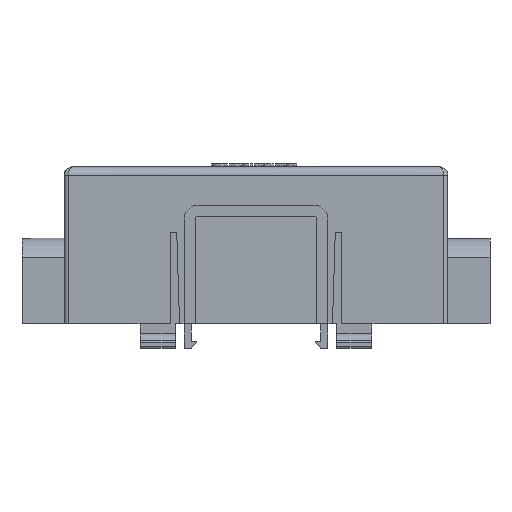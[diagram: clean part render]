
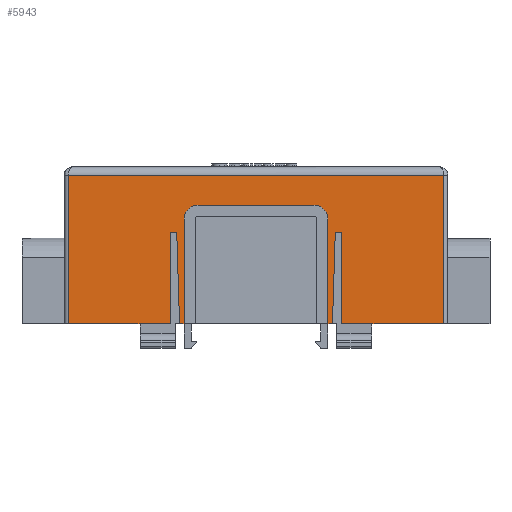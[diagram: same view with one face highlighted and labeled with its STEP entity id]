
A CAD part, front view. The second image highlights one B-rep face of the part: STEP entity #5943.
In plain terms, the highlighted planar face has unit normal (0, -1, 0).
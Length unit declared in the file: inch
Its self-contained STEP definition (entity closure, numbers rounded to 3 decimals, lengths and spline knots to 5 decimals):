
#99=CIRCLE('',#6282,0.098);
#100=CIRCLE('',#6283,0.098);
#516=FACE_OUTER_BOUND('',#836,.T.);
#836=EDGE_LOOP('',(#5275,#5276,#5277,#5278,#5279,#5280,#5281,#5282,#5283,
#5284,#5285,#5286,#5287,#5288,#5289,#5290,#5291,#5292));
#1321=LINE('',#9678,#1961);
#1347=LINE('',#9746,#1987);
#1588=LINE('',#10323,#2228);
#1591=LINE('',#10329,#2231);
#1594=LINE('',#10334,#2234);
#1606=LINE('',#10361,#2246);
#1607=LINE('',#10363,#2247);
#1608=LINE('',#10365,#2248);
#1609=LINE('',#10367,#2249);
#1610=LINE('',#10369,#2250);
#1611=LINE('',#10371,#2251);
#1612=LINE('',#10373,#2252);
#1613=LINE('',#10375,#2253);
#1614=LINE('',#10377,#2254);
#1615=LINE('',#10381,#2255);
#1616=LINE('',#10384,#2256);
#1961=VECTOR('',#6883,0.3937);
#1987=VECTOR('',#6943,0.3937);
#2228=VECTOR('',#7476,0.3937);
#2231=VECTOR('',#7481,0.3937);
#2234=VECTOR('',#7486,0.3937);
#2246=VECTOR('',#7506,0.3937);
#2247=VECTOR('',#7507,0.3937);
#2248=VECTOR('',#7508,0.3937);
#2249=VECTOR('',#7509,0.3937);
#2250=VECTOR('',#7510,0.3937);
#2251=VECTOR('',#7511,0.3937);
#2252=VECTOR('',#7512,0.3937);
#2253=VECTOR('',#7513,0.3937);
#2254=VECTOR('',#7514,0.3937);
#2255=VECTOR('',#7517,0.3937);
#2256=VECTOR('',#7520,0.3937);
#2605=VERTEX_POINT('',#9675);
#2606=VERTEX_POINT('',#9677);
#2630=VERTEX_POINT('',#9743);
#2631=VERTEX_POINT('',#9745);
#2821=VERTEX_POINT('',#10322);
#2823=VERTEX_POINT('',#10328);
#2835=VERTEX_POINT('',#10360);
#2836=VERTEX_POINT('',#10362);
#2837=VERTEX_POINT('',#10364);
#2838=VERTEX_POINT('',#10366);
#2839=VERTEX_POINT('',#10368);
#2840=VERTEX_POINT('',#10370);
#2841=VERTEX_POINT('',#10372);
#2842=VERTEX_POINT('',#10374);
#2843=VERTEX_POINT('',#10376);
#2844=VERTEX_POINT('',#10378);
#2845=VERTEX_POINT('',#10380);
#2846=VERTEX_POINT('',#10382);
#3331=EDGE_CURVE('',#2606,#2605,#1321,.T.);
#3364=EDGE_CURVE('',#2631,#2630,#1347,.T.);
#3653=EDGE_CURVE('',#2605,#2821,#1588,.T.);
#3656=EDGE_CURVE('',#2821,#2823,#1591,.T.);
#3659=EDGE_CURVE('',#2823,#2631,#1594,.T.);
#3673=EDGE_CURVE('',#2835,#2630,#1606,.T.);
#3674=EDGE_CURVE('',#2836,#2835,#1607,.T.);
#3675=EDGE_CURVE('',#2837,#2836,#1608,.T.);
#3676=EDGE_CURVE('',#2837,#2838,#1609,.T.);
#3677=EDGE_CURVE('',#2838,#2839,#1610,.T.);
#3678=EDGE_CURVE('',#2839,#2840,#1611,.T.);
#3679=EDGE_CURVE('',#2840,#2841,#1612,.T.);
#3680=EDGE_CURVE('',#2841,#2842,#1613,.T.);
#3681=EDGE_CURVE('',#2842,#2843,#1614,.T.);
#3682=EDGE_CURVE('',#2843,#2844,#99,.T.);
#3683=EDGE_CURVE('',#2844,#2845,#1615,.T.);
#3684=EDGE_CURVE('',#2845,#2846,#100,.T.);
#3685=EDGE_CURVE('',#2846,#2606,#1616,.T.);
#5275=ORIENTED_EDGE('',*,*,#3653,.T.);
#5276=ORIENTED_EDGE('',*,*,#3656,.T.);
#5277=ORIENTED_EDGE('',*,*,#3659,.T.);
#5278=ORIENTED_EDGE('',*,*,#3364,.T.);
#5279=ORIENTED_EDGE('',*,*,#3673,.F.);
#5280=ORIENTED_EDGE('',*,*,#3674,.F.);
#5281=ORIENTED_EDGE('',*,*,#3675,.F.);
#5282=ORIENTED_EDGE('',*,*,#3676,.T.);
#5283=ORIENTED_EDGE('',*,*,#3677,.T.);
#5284=ORIENTED_EDGE('',*,*,#3678,.T.);
#5285=ORIENTED_EDGE('',*,*,#3679,.T.);
#5286=ORIENTED_EDGE('',*,*,#3680,.T.);
#5287=ORIENTED_EDGE('',*,*,#3681,.T.);
#5288=ORIENTED_EDGE('',*,*,#3682,.T.);
#5289=ORIENTED_EDGE('',*,*,#3683,.T.);
#5290=ORIENTED_EDGE('',*,*,#3684,.T.);
#5291=ORIENTED_EDGE('',*,*,#3685,.T.);
#5292=ORIENTED_EDGE('',*,*,#3331,.T.);
#5641=PLANE('',#6281);
#5943=ADVANCED_FACE('',(#516),#5641,.T.);
#6281=AXIS2_PLACEMENT_3D('',#10359,#7504,#7505);
#6282=AXIS2_PLACEMENT_3D('',#10379,#7515,#7516);
#6283=AXIS2_PLACEMENT_3D('',#10383,#7518,#7519);
#6883=DIRECTION('',(1.,0.,0.));
#6943=DIRECTION('',(1.,0.,0.));
#7476=DIRECTION('',(0.03,0.,1.));
#7481=DIRECTION('',(1.,0.,0.));
#7486=DIRECTION('',(0.,0.,-1.));
#7504=DIRECTION('center_axis',(0.,-1.,0.));
#7505=DIRECTION('ref_axis',(1.,0.,0.));
#7506=DIRECTION('',(0.,0.,-1.));
#7507=DIRECTION('',(1.,0.,0.));
#7508=DIRECTION('',(0.,0.,1.));
#7509=DIRECTION('',(1.,0.,0.));
#7510=DIRECTION('',(0.,0.,1.));
#7511=DIRECTION('',(1.,0.,0.));
#7512=DIRECTION('',(0.03,0.,-1.));
#7513=DIRECTION('',(1.,0.,0.));
#7514=DIRECTION('',(0.,0.,1.));
#7515=DIRECTION('center_axis',(0.,1.,0.));
#7516=DIRECTION('ref_axis',(0.,0.,
1.));
#7517=DIRECTION('',(1.,0.,0.));
#7518=DIRECTION('center_axis',(0.,1.,0.));
#7519=DIRECTION('ref_axis',(1.,0.,0.));
#7520=DIRECTION('',(0.,0.,-1.));
#9675=CARTESIAN_POINT('',(0.536,-1.992,0.));
#9677=CARTESIAN_POINT('',(0.504,-1.992,0.));
#9678=CARTESIAN_POINT('',(-1.345,-1.992,0.));
#9743=CARTESIAN_POINT('',(1.315,-1.992,0.));
#9745=CARTESIAN_POINT('',(0.60071,-1.992,0.));
#9746=CARTESIAN_POINT('',(-1.345,-1.992,0.));
#10322=CARTESIAN_POINT('',(0.55556,-1.992,0.642));
#10323=CARTESIAN_POINT('',(0.54491,-1.992,0.29237));
#10328=CARTESIAN_POINT('',(0.60071,-1.992,0.642));
#10329=CARTESIAN_POINT('',(-0.37215,-1.992,0.642));
#10334=CARTESIAN_POINT('',(0.60071,-1.992,0.));
#10359=CARTESIAN_POINT('Origin',(-1.345,-1.992,0.));
#10360=CARTESIAN_POINT('',(1.315,-1.992,1.04));
#10361=CARTESIAN_POINT('',(1.315,-1.992,0.));
#10362=CARTESIAN_POINT('',(-1.315,-1.992,1.04));
#10363=CARTESIAN_POINT('',(-0.6725,-1.992,1.04));
#10364=CARTESIAN_POINT('',(-1.315,-1.992,0.));
#10365=CARTESIAN_POINT('',(-1.315,-1.992,0.));
#10366=CARTESIAN_POINT('',(-0.60071,-1.992,0.));
#10367=CARTESIAN_POINT('',(-1.345,-1.992,0.));
#10368=CARTESIAN_POINT('',(-0.60071,-1.992,0.642));
#10369=CARTESIAN_POINT('',(-0.60071,-1.992,0.));
#10370=CARTESIAN_POINT('',(-0.55556,-1.992,0.642));
#10371=CARTESIAN_POINT('',(-0.97285,-1.992,0.642));
#10372=CARTESIAN_POINT('',(-0.536,-1.992,0.));
#10373=CARTESIAN_POINT('',(-0.54616,-1.992,0.33331));
#10374=CARTESIAN_POINT('',(-0.504,-1.992,0.));
#10375=CARTESIAN_POINT('',(-1.345,-1.992,0.));
#10376=CARTESIAN_POINT('',(-0.504,-1.992,0.734));
#10377=CARTESIAN_POINT('',(-0.504,-1.992,0.367));
#10378=CARTESIAN_POINT('',(-0.406,-1.992,0.832));
#10379=CARTESIAN_POINT('Origin',(-0.406,-1.992,0.734));
#10380=CARTESIAN_POINT('',(0.406,-1.992,0.832));
#10381=CARTESIAN_POINT('',(-0.4695,-1.992,0.832));
#10382=CARTESIAN_POINT('',(0.504,-1.992,0.734));
#10383=CARTESIAN_POINT('Origin',(0.406,-1.992,0.734));
#10384=CARTESIAN_POINT('',(0.504,-1.992,0.));
